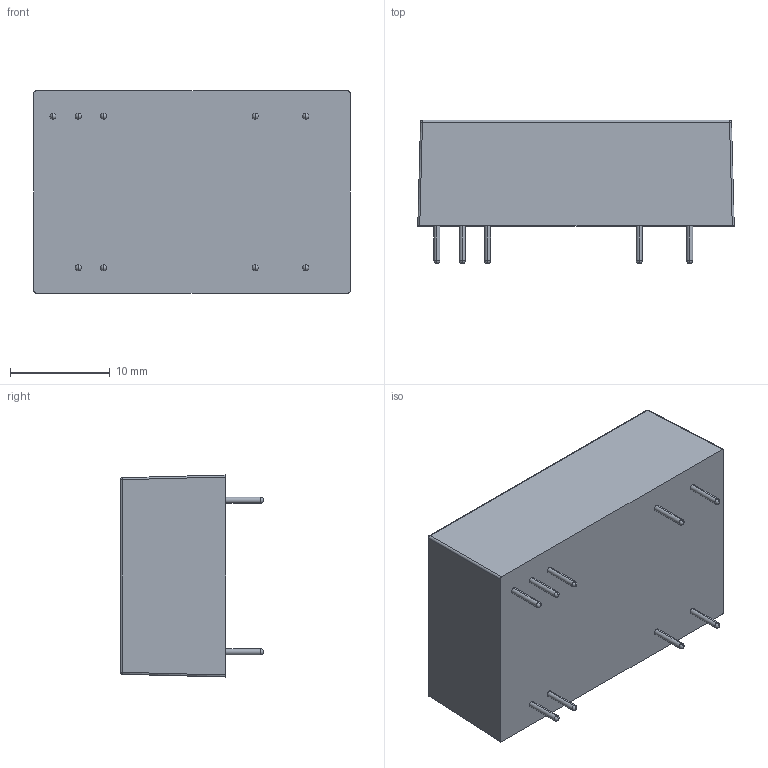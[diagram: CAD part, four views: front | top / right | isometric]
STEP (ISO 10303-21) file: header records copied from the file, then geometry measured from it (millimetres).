
FILE_DESCRIPTION (( 'STEP AP214' ), '1' );
FILE_NAME ('TEN 3WIRH.STEP', '2022-03-10T09:03:11', ( '' ), ( '' ), 'SwSTEP 2.0', 'SolidWorks 2016', '' );
FILE_SCHEMA (( 'AUTOMOTIVE_DESIGN' ));
Length unit declared in the file: millimetre
Products named in the file (1): TEN 3WIRH
Bounding box: 31.8 x 14.4 x 20.3 mm (x, y, z)
Volume: 6698.8 mm3; surface area: 2405.6 mm2
Topology: 1 solids, 1 shells, 54 faces, 148 edges, 83 vertices
Faces by surface type: cylinder 26, sphere 22, plane 6
Entity records: 1840 total; most frequent: DIRECTION 280, CARTESIAN_POINT 240, ORIENTED_EDGE 216, AXIS2_PLACEMENT_3D 121, EDGE_CURVE 108, CIRCLE 66, VERTEX_POINT 65, EDGE_LOOP 63
